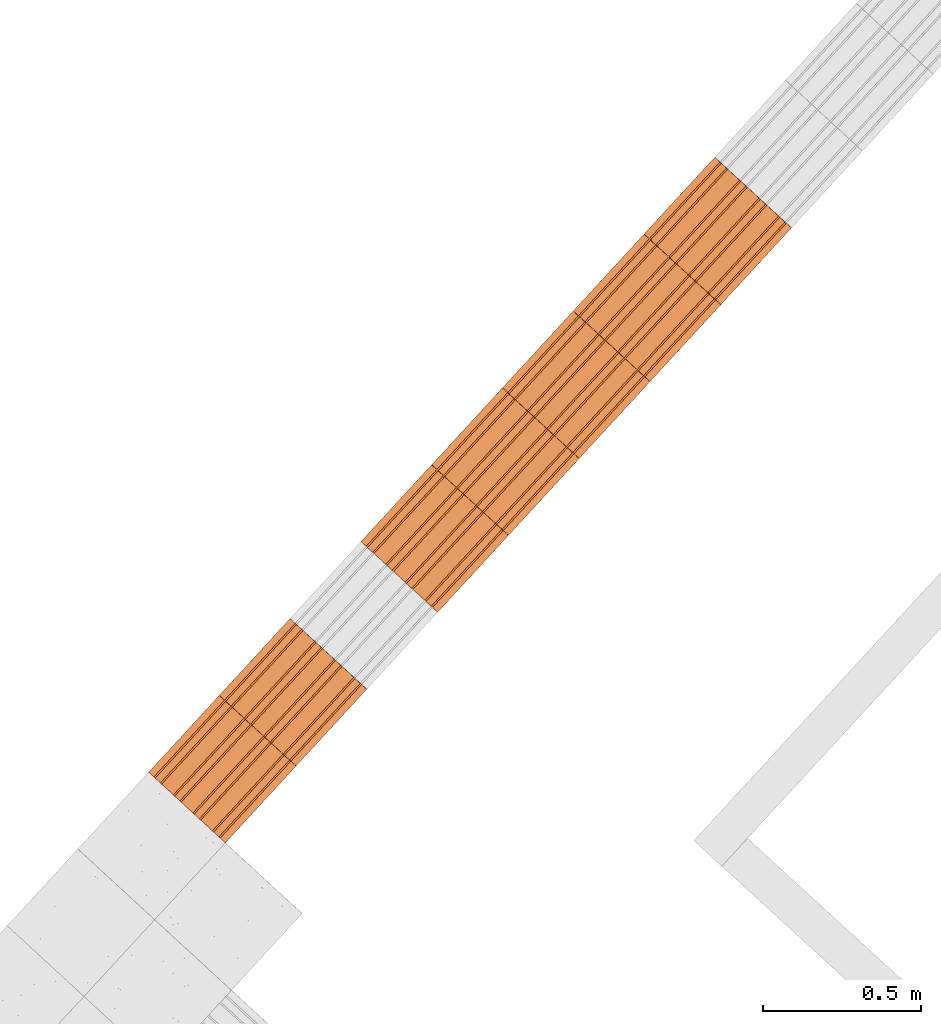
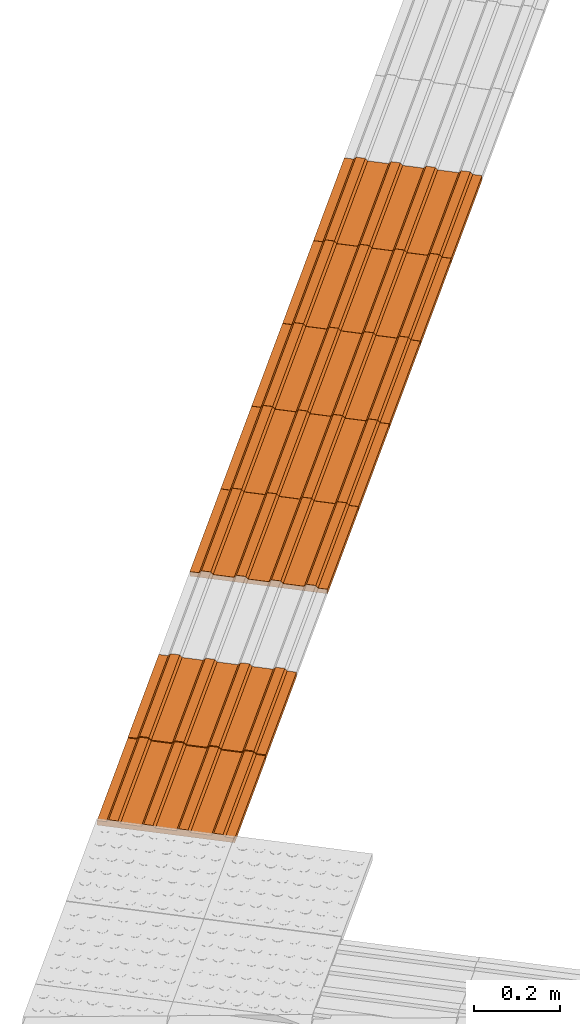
# One storey, part 169 of 237: 7 proxies.
"""IFC2X3 building model written with IfcOpenShell, lengths in millimetres."""

from ifc_helpers import new_model, entity, si_unit, converted_unit, derived_unit, money_unit, direction, frame, origin_with_axes, place, context, subcontext, project, spatial, open_shell, surface_model, source, transform, mapped, type_object, element, save


model = new_model("IFC2X3")

# Units and contexts
model_context = context("Model", 3, precision=0.01, world=origin_with_axes(), true_north=direction((0.0, 1.0)))
body_context = subcontext(model_context, "Body", "Model", "MODEL_VIEW")
ifc_project = project(units=[si_unit("LENGTHUNIT", "METRE", prefix="MILLI"), si_unit("AREAUNIT", "SQUARE_METRE"), si_unit("VOLUMEUNIT", "CUBIC_METRE"), converted_unit("PLANEANGLEUNIT", "DEGREE", entity("IfcPlaneAngleMeasure", 0.0174532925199), si_unit("PLANEANGLEUNIT", "RADIAN"), dimensions=[0, 0, 0, 0, 0, 0, 0]), money_unit("USD"), converted_unit("TIMEUNIT", "Year", entity("IfcTimeMeasure", 31556926.0), si_unit("TIMEUNIT", "SECOND"), dimensions=[0, 0, 1, 0, 0, 0, 0]), si_unit("MASSUNIT", "GRAM", prefix="KILO"), si_unit("THERMODYNAMICTEMPERATUREUNIT", "DEGREE_CELSIUS"), si_unit("LUMINOUSINTENSITYUNIT", "LUMEN"), si_unit("ENERGYUNIT", "JOULE", prefix="MEGA"), derived_unit("THERMALCONDUCTANCEUNIT", [(si_unit("POWERUNIT", "WATT"), 1), (si_unit("LENGTHUNIT", "METRE"), -1), (si_unit("THERMODYNAMICTEMPERATUREUNIT", "KELVIN"), -1)]), derived_unit("SPECIFICHEATCAPACITYUNIT", [(si_unit("ENERGYUNIT", "JOULE"), 1), (si_unit("MASSUNIT", "GRAM", prefix="KILO"), -1), (si_unit("THERMODYNAMICTEMPERATUREUNIT", "KELVIN"), -1)]), derived_unit("MASSDENSITYUNIT", [(si_unit("MASSUNIT", "GRAM", prefix="KILO"), 1), (si_unit("VOLUMEUNIT", "CUBIC_METRE"), -1)])], contexts=[model_context])

# Site, building, storey
site_placement = place(None, origin_with_axes())
site = spatial("IfcSite", under=ifc_project, at=site_placement, Name="Local", CompositionType="ELEMENT")
building_placement = place(site_placement, origin_with_axes())
building = spatial("IfcBuilding", under=site, at=building_placement, Name="Construção", CompositionType="ELEMENT")
storey_placement = place(building_placement, origin_with_axes())
storey = spatial("IfcBuildingStorey", under=building, at=storey_placement, Name="Pavimento Térreo", CompositionType="ELEMENT", Elevation=0.0)

# Proxies
building_element_proxy_type = type_object("IfcBuildingElementProxyType", Name="Piso Direcional 27", PredefinedType="NOTDEFINED")
shared_shape = source(origin_with_axes(), body_context, "Body", "SurfaceModel", [
    surface_model("IfcShellBasedSurfaceModel", [(0.126538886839, -47.258225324, 4.02653266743), (329.963703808, -47.258225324, -6.33901782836), (330.173108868, -41.665004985, 0.32435924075), (0.33594394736, -41.665004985, 10.6899097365)], [open_shell([[[0, 1, 2, 3]]])]),
    surface_model("IfcShellBasedSurfaceModel", [(329.544893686, -153.529411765, -19.6657719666), (329.544893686, 176.470588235, -19.6657719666), (329.963703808, 176.470588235, -6.33901782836), (329.963703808, 154.097706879, -6.33901782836), (330.173108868, 148.50448654, 0.32435924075), (330.173108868, 126.131605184, 0.32435924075), (329.963703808, 120.538384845, -6.33901782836), (329.963703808, 70.1994017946, -6.33901782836), (330.173108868, 64.6061814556, 0.32435924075), (330.173108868, 42.2333000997, 0.32435924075), (329.963703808, 36.6400797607, -6.33901782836), (329.963703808, -13.6989032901, -6.33901782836), (330.173108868, -19.2921236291, 0.32435924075), (330.173108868, -41.665004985, 0.32435924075), (329.963703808, -47.258225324, -6.33901782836), (329.963703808, -97.5972083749, -6.33901782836), (330.173108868, -103.190428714, 0.32435924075), (330.173108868, -125.56331007, 0.32435924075), (329.963703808, -131.156530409, -6.33901782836), (329.963703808, -153.529411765, -6.33901782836)], [open_shell([[[0, 1, 2, 3, 4, 5, 6, 7, 8, 9, 10, 11, 12, 13, 14, 15, 16, 17, 18, 19]]])]),
    surface_model("IfcShellBasedSurfaceModel", [(0.33594394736, -19.2921236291, 10.6899097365), (330.173108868, -19.2921236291, 0.32435924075), (329.963703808, -13.6989032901, -6.33901782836), (0.126538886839, -13.6989032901, 4.02653266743)], [open_shell([[[0, 1, 2, 3]]])]),
    surface_model("IfcShellBasedSurfaceModel", [(0.33594394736, -103.190428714, 10.6899097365), (330.173108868, -103.190428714, 0.32435924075), (329.963703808, -97.5972083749, -6.33901782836), (0.126538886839, -97.5972083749, 4.02653266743)], [open_shell([[[0, 1, 2, 3]]])]),
    surface_model("IfcShellBasedSurfaceModel", [(0.33594394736, 64.6061814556, 10.6899097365), (330.173108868, 64.6061814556, 0.32435924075), (329.963703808, 70.1994017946, -6.33901782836), (0.126538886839, 70.1994017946, 4.02653266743)], [open_shell([[[0, 1, 2, 3]]])]),
    surface_model("IfcShellBasedSurfaceModel", [(0.126538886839, 36.6400797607, 4.02653266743), (329.963703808, 36.6400797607, -6.33901782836), (330.173108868, 42.2333000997, 0.32435924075), (0.33594394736, 42.2333000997, 10.6899097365)], [open_shell([[[0, 1, 2, 3]]])]),
    surface_model("IfcShellBasedSurfaceModel", [(0.126538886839, -131.156530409, 4.02653266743), (329.963703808, -131.156530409, -6.33901782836), (330.173108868, -125.56331007, 0.32435924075), (0.33594394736, -125.56331007, 10.6899097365)], [open_shell([[[0, 1, 2, 3]]])]),
    surface_model("IfcShellBasedSurfaceModel", [(0.126538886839, 176.470588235, 4.02653266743), (0.126538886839, 154.097706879, 4.02653266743), (329.963703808, 154.097706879, -6.33901782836), (329.963703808, 176.470588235, -6.33901782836)], [open_shell([[[0, 1, 2, 3]]])]),
    surface_model("IfcShellBasedSurfaceModel", [(0.126538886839, 120.538384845, 4.02653266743), (329.963703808, 120.538384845, -6.33901782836), (330.173108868, 126.131605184, 0.32435924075), (0.33594394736, 126.131605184, 10.6899097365)], [open_shell([[[0, 1, 2, 3]]])]),
    surface_model("IfcShellBasedSurfaceModel", [(0.33594394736, 148.50448654, 10.6899097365), (330.173108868, 148.50448654, 0.32435924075), (329.963703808, 154.097706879, -6.33901782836), (0.126538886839, 154.097706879, 4.02653266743)], [open_shell([[[0, 1, 2, 3]]])]),
    surface_model("IfcShellBasedSurfaceModel", [(0.126538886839, 36.6400797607, 4.02653266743), (0.126538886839, -13.6989032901, 4.02653266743), (329.963703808, -13.6989032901, -6.33901782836), (329.963703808, 36.6400797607, -6.33901782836)], [open_shell([[[0, 1, 2, 3]]])]),
    surface_model("IfcShellBasedSurfaceModel", [(0.126538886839, 120.538384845, 4.02653266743), (0.126538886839, 70.1994017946, 4.02653266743), (329.963703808, 70.1994017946, -6.33901782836), (329.963703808, 120.538384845, -6.33901782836)], [open_shell([[[0, 1, 2, 3]]])]),
    surface_model("IfcShellBasedSurfaceModel", [(0.33594394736, 148.50448654, 10.6899097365), (0.33594394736, 126.131605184, 10.6899097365), (330.173108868, 126.131605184, 0.32435924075), (330.173108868, 148.50448654, 0.32435924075)], [open_shell([[[0, 1, 2, 3]]])]),
    surface_model("IfcShellBasedSurfaceModel", [(0.126538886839, 120.538384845, 4.02653266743), (0.33594394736, 126.131605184, 10.6899097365), (0.33594394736, 148.50448654, 10.6899097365), (0.126538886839, 154.097706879, 4.02653266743), (0.126538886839, 176.470588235, 4.02653266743), (-0.292271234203, 176.470588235, -9.30022147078), (-0.292271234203, -153.529411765, -9.30022147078), (0.126538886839, -153.529411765, 4.02653266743), (0.126538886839, -131.156530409, 4.02653266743), (0.33594394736, -125.56331007, 10.6899097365), (0.33594394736, -103.190428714, 10.6899097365), (0.126538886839, -97.5972083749, 4.02653266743), (0.126538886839, -47.258225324, 4.02653266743), (0.33594394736, -41.665004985, 10.6899097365), (0.33594394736, -19.2921236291, 10.6899097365), (0.126538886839, -13.6989032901, 4.02653266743), (0.126538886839, 36.6400797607, 4.02653266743), (0.33594394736, 42.2333000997, 10.6899097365), (0.33594394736, 64.6061814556, 10.6899097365), (0.126538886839, 70.1994017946, 4.02653266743)], [open_shell([[[0, 1, 2, 3, 4, 5, 6, 7, 8, 9, 10, 11, 12, 13, 14, 15, 16, 17, 18, 19]]])]),
    surface_model("IfcShellBasedSurfaceModel", [(330.173108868, -41.665004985, 0.32435924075), (330.173108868, -19.2921236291, 0.32435924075), (0.33594394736, -19.2921236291, 10.6899097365), (0.33594394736, -41.665004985, 10.6899097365)], [open_shell([[[0, 1, 2, 3]]])]),
    surface_model("IfcShellBasedSurfaceModel", [(0.126538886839, -47.258225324, 4.02653266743), (0.126538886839, -97.5972083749, 4.02653266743), (329.963703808, -97.5972083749, -6.33901782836), (329.963703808, -47.258225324, -6.33901782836)], [open_shell([[[0, 1, 2, 3]]])]),
    surface_model("IfcShellBasedSurfaceModel", [(330.173108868, 42.2333000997, 0.32435924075), (330.173108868, 64.6061814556, 0.32435924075), (0.33594394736, 64.6061814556, 10.6899097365), (0.33594394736, 42.2333000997, 10.6899097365)], [open_shell([[[0, 1, 2, 3]]])]),
    surface_model("IfcShellBasedSurfaceModel", [(330.173108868, -125.56331007, 0.32435924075), (330.173108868, -103.190428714, 0.32435924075), (0.33594394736, -103.190428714, 10.6899097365), (0.33594394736, -125.56331007, 10.6899097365)], [open_shell([[[0, 1, 2, 3]]])]),
    surface_model("IfcShellBasedSurfaceModel", [(329.544893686, 176.470588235, -19.6657719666), (-0.292271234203, 176.470588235, -9.30022147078), (0.126538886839, 176.470588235, 4.02653266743), (329.963703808, 176.470588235, -6.33901782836)], [open_shell([[[0, 1, 2, 3]]])]),
    surface_model("IfcShellBasedSurfaceModel", [(329.544893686, -153.529411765, -19.6657719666), (-0.292271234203, -153.529411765, -9.30022147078), (-0.292271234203, 176.470588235, -9.30022147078), (329.544893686, 176.470588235, -19.6657719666)], [open_shell([[[0, 1, 2, 3]]])]),
    surface_model("IfcShellBasedSurfaceModel", [(329.963703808, -153.529411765, -6.33901782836), (329.963703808, -131.156530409, -6.33901782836), (0.126538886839, -131.156530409, 4.02653266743), (0.126538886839, -153.529411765, 4.02653266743)], [open_shell([[[0, 1, 2, 3]]])]),
    surface_model("IfcShellBasedSurfaceModel", [(-0.292271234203, -153.529411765, -9.30022147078), (329.544893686, -153.529411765, -19.6657719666), (329.963703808, -153.529411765, -6.33901782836), (0.126538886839, -153.529411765, 4.02653266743)], [open_shell([[[0, 1, 2, 3]]])]),
])
for number, where, z_axis, x_axis, name in (
    (1, (40249.4991466, 27863.5145373, -1728.94999402), (0.0, 0.0, 1.0), (-0.677327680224, -0.735681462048, 0.0), "Objeto-0055"),
    (2, (41368.7703797, 29079.2142958, -1674.95767968), (0.0, 0.0, 1.0), (-0.677327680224, -0.735681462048, 0.0), "Objeto-0055"),
    (3, (40921.0618865, 28592.9343924, -1695.73020475), (0.0, 0.0, 1.0), (-0.677327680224, -0.735681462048, 0.0), "Objeto-0055"),
    (4, (41144.9161331, 28836.0743441, -1685.34394222), (0.0, 0.0, 1.0), (-0.677327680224, -0.735681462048, 0.0), "Objeto-0055"),
    (5, (41592.6246264, 29322.3542475, -1664.57141714), (0.0, 0.0, 1.0), (-0.677327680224, -0.735681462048, 0.0), "Objeto-0055"),
    (6, (41816.478873, 29565.4941991, -1654.18515461), (0.0, 0.0, 1.0), (-0.677327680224, -0.735681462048, 0.0), "Objeto-0055"),
    (7, (40473.3533932, 28106.654489, -1716.50272982), (0.0, 0.0, 1.0), (-0.677327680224, -0.735681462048, 0.0), "Objeto-0055"),
):
    element("IfcBuildingElementProxy", number, at=place(storey_placement, frame(where, z_axis=z_axis, x_axis=x_axis)), inside=storey, type_object=building_element_proxy_type, Name=name, context=body_context, shape_type="MappedRepresentation", body=[
        mapped(shared_shape, transform((0.0, 0.0, 0.0))),
    ])

save(model, "model.ifc")
